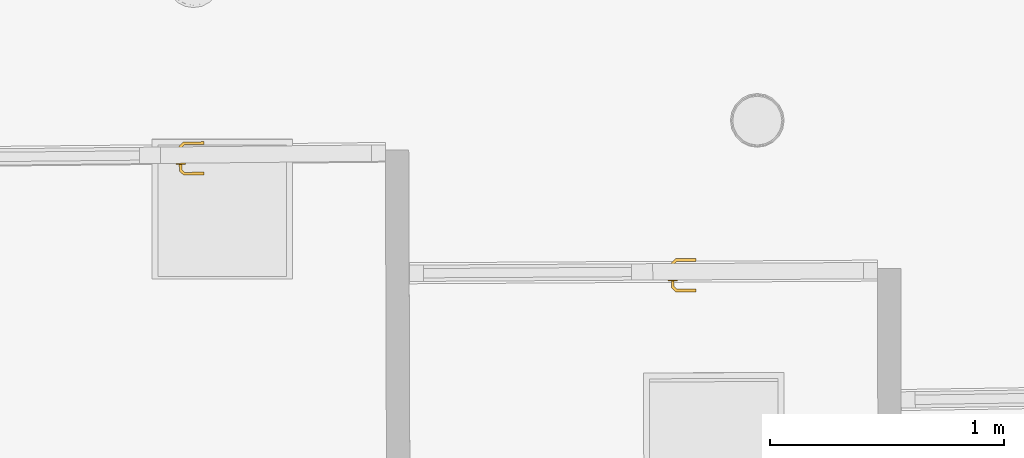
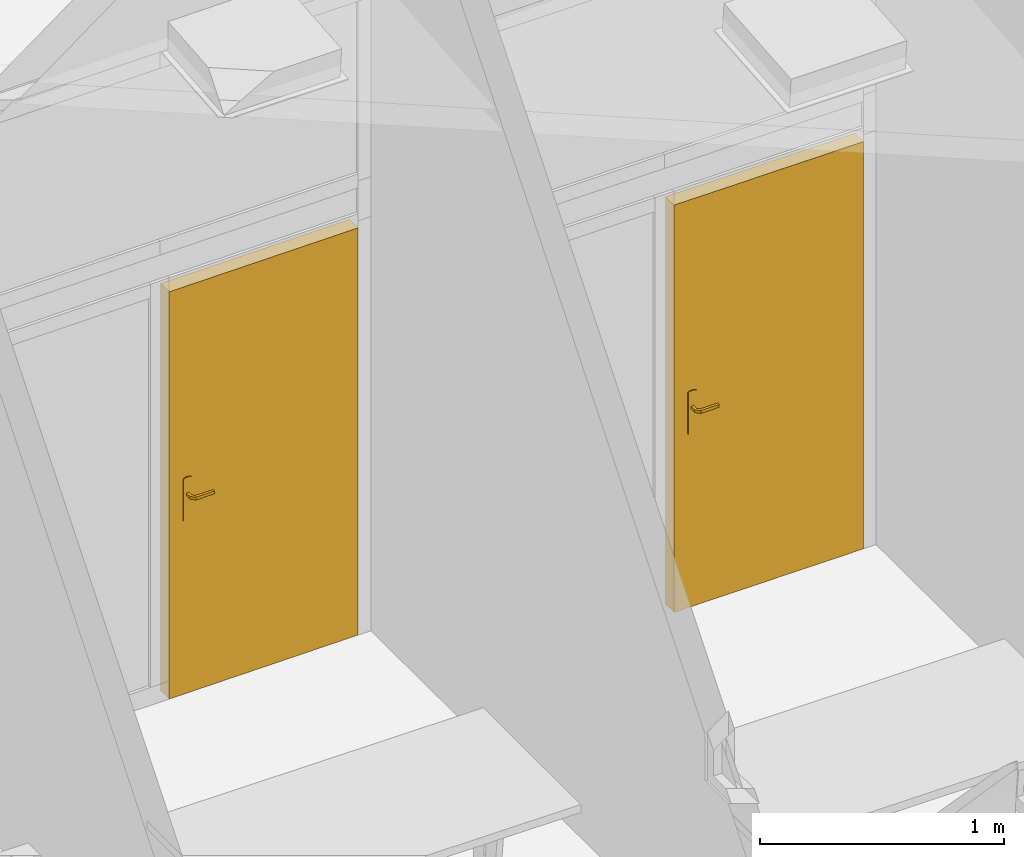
# One storey, part 55 of 128: 2 doors, 2 elements without a shape of their own.
"""IFC2X3 building model written with IfcOpenShell, lengths in metres."""

from ifc_helpers import new_model, entity, si_unit, converted_unit, derived_unit, direction, frame, origin, place, context, subcontext, project, spatial, faceted_brep, source, transform, mapped, material, type_object, type_shapes, element, aggregate, save


model = new_model("IFC2X3")

# Units and contexts
model_context = context("Model", 3, precision=1e-05, world=origin(), true_north=direction((6.123031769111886e-17, 1.0)))
body_context = subcontext(model_context, "Body", "Model", "MODEL_VIEW")
ifc_project = project(units=[si_unit("LENGTHUNIT", "METRE"), si_unit("AREAUNIT", "SQUARE_METRE"), converted_unit("PLANEANGLEUNIT", "DEGREE", entity("IfcPlaneAngleMeasure", 0.017453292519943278), si_unit("PLANEANGLEUNIT", "RADIAN"), dimensions=[0, 0, 0, 0, 0, 0, 0]), derived_unit("THERMALTRANSMITTANCEUNIT", [(si_unit("MASSUNIT", "GRAM", prefix="KILO"), 1), (si_unit("THERMODYNAMICTEMPERATUREUNIT", "KELVIN"), -1), (si_unit("TIMEUNIT", "SECOND"), -3)])], contexts=[model_context])

# Site, building, storey
site_placement = place(None, origin())
site = spatial("IfcSite", under=ifc_project, at=site_placement, Name="Default", CompositionType="ELEMENT")
building_placement = place(site_placement, origin())
building = spatial("IfcBuilding", under=site, at=building_placement, CompositionType="ELEMENT")
storey_placement = place(building_placement, origin())
storey = spatial("IfcBuildingStorey", under=building, at=storey_placement, Name="00_RDC CAF", CompositionType="ELEMENT", Elevation=2.4982504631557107e-13)

# Curtain wall, door
curtain_wall_type = type_object("IfcCurtainWallType", Name="Mur-rideau:M.Ri_Vitre_40mm_Montant_70X90mm", PredefinedType="NOTDEFINED")
curtain_wall_1_placement = place(storey_placement, origin())
curtain_wall_1 = element("IfcCurtainWall", 1, at=curtain_wall_1_placement, inside=storey, type_object=curtain_wall_type, Name="Mur-rideau:M.Ri_Vitre_40mm_Montant_70X90mm", ObjectType="Mur-rideau:M.Ri_Vitre_40mm_Montant_70X90mm")
ifc_material = material(Name="ARC - M.In - Blanc")
door_style_1 = type_object("IfcDoorStyle", Name="P_Ri_Simple:P_M-Ri_Int_Simple_Pleine_40mm", ConstructionType="NOTDEFINED", OperationType="SINGLE_SWING_LEFT", ParameterTakesPrecedence=False, Sizeable=False, material=ifc_material)
shared_shape_1 = source(origin(), body_context, "Body", "Brep", [
    faceted_brep([(0.3633806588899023, 0.03999999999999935, 0.9922195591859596), (0.3674312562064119, 0.03999999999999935, 0.992219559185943), (0.3714059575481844, 0.03999999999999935, 0.9929999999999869), (0.37140595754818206, 0.03999999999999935, 1.0070000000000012), (0.36743125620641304, 0.03999999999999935, 1.007780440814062), (0.3633806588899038, 0.03999999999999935, 1.007780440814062), (0.3594059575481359, 0.03999999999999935, 1.007000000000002), (0.3594059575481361, 0.03999999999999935, 0.9930000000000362), (0.359405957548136, 0.062485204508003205, 0.9930000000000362), (0.3594059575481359, 0.06248520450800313, 1.007000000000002), (0.3633806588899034, 0.06413157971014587, 1.007780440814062), (0.36743125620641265, 0.06580939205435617, 1.007780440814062), (0.3512448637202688, 0.08199578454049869, 1.007780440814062), (0.3495670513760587, 0.07794518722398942, 1.007780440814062), (0.37140595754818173, 0.06745576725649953, 1.0070000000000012), (0.3714059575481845, 0.06745576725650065, 0.9929999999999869), (0.367431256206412, 0.06580939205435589, 0.992219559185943), (0.3633806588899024, 0.06413157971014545, 0.9922195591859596), (0.3495670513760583, 0.07794518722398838, 0.9922195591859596), (0.3512448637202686, 0.08199578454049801, 0.992219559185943), (0.3479206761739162, 0.07397048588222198, 0.9930000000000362), (0.3479206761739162, 0.07397048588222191, 1.007000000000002), (0.352891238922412, 0.08597048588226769, 1.0070000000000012), (0.3528912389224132, 0.08597048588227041, 0.9929999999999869), (0.2653601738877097, 0.07794518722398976, 1.0077804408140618), (0.2653601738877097, 0.08199578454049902, 1.0077804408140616), (0.2653601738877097, 0.08597048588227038, 1.0070000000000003), (0.2653601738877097, 0.08597048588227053, 0.9929999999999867), (0.2653601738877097, 0.08199578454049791, 0.9922195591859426), (0.2653601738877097, 0.07794518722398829, 0.9922195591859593), (0.2653601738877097, 0.07397048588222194, 0.9930000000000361), (0.2653601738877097, 0.07397048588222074, 1.0070000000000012), (0.3066404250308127, 0.07397048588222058, 1.0070000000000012), (0.3066404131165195, 0.07397048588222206, 0.9930000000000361), (0.3074636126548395, 0.07997048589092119, 1.007878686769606), (0.3129607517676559, 0.0859704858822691, 1.0070000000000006), (0.3129607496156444, 0.08597048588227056, 0.9929999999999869), (0.30746361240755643, 0.07997048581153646, 0.9921213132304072)], [[[0, 1, 2, 3, 4, 5, 6, 7]], [[8, 7, 6, 9]], [[5, 10, 9, 6]], [[5, 4, 11, 12, 13, 10]], [[3, 14, 11, 4]], [[14, 3, 2, 15]], [[2, 1, 16, 15]], [[1, 0, 17, 18, 19, 16]], [[0, 7, 8, 17]], [[20, 8, 9, 21]], [[9, 10, 13, 21]], [[14, 22, 12, 11]], [[22, 14, 15, 23]], [[15, 16, 19, 23]], [[17, 8, 20, 18]], [[24, 25, 26, 27, 28, 29, 30, 31]], [[21, 32, 31, 30, 33, 20]], [[34, 24, 32]], [[25, 34, 35]], [[13, 32, 21]], [[24, 31, 32]], [[25, 35, 26]], [[35, 12, 22]], [[34, 12, 35]], [[34, 13, 12]], [[34, 32, 13]], [[24, 34, 25]], [[22, 23, 36, 27, 26, 35]], [[37, 28, 36]], [[36, 28, 27]], [[36, 23, 19]], [[18, 33, 37]], [[33, 18, 20]], [[30, 29, 33]], [[37, 29, 28]], [[37, 33, 29]], [[37, 36, 19]], [[18, 37, 19]]]),
    faceted_brep([(0.3633806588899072, -0.010000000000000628, 1.007780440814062), (0.3674312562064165, -0.010000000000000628, 1.0077804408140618), (0.3714059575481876, -0.010000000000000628, 1.0069999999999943), (0.3714059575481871, -0.010000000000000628, 0.9929999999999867), (0.36743125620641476, -0.010000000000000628, 0.9922195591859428), (0.3633806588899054, -0.010000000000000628, 0.9922195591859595), (0.3594059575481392, -0.010000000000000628, 0.9930000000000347), (0.3594059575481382, -0.010000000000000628, 1.0070000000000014), (0.36743125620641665, -0.036004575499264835, 1.0077804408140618), (0.37140595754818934, -0.037650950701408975, 1.007), (0.36338065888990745, -0.03432676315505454, 1.007780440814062), (0.34970456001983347, -0.04800286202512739, 1.007780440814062), (0.35138237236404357, -0.05205345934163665, 1.0077804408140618), (0.3594059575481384, -0.03268038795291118, 1.0070000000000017), (0.3594059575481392, -0.0326803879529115, 0.9930000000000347), (0.3633806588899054, -0.034326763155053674, 0.9922195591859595), (0.36743125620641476, -0.03600457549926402, 0.9922195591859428), (0.35138237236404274, -0.05205345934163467, 0.9922195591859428), (0.34970456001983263, -0.048002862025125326, 0.9922195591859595), (0.3714059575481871, -0.03765095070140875, 0.9929999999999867), (0.3530287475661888, -0.056028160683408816, 1.007), (0.34805818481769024, -0.04402816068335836, 1.0070000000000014), (0.3480581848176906, -0.044028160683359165, 0.9930000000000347), (0.35302874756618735, -0.056028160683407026, 0.9929999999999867), (0.265387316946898, -0.05602816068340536, 1.0070000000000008), (0.265387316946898, -0.05205345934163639, 1.0077804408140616), (0.265387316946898, -0.048002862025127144, 1.0077804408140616), (0.265387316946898, -0.0440281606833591, 1.0069999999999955), (0.265387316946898, -0.044028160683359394, 0.9930000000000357), (0.265387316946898, -0.04800286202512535, 0.9922195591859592), (0.265387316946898, -0.05205345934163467, 0.9922195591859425), (0.265387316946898, -0.05602816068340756, 0.9929999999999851), (0.3075459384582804, -0.05002816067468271, 1.0078786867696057), (0.31309826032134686, -0.05602816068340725, 1.0070000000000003), (0.3067227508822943, -0.04402816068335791, 1.0070000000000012), (0.3067227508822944, -0.04402816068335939, 0.993000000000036), (0.30754593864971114, -0.05002816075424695, 0.9921213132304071), (0.31309824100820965, -0.05602816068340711, 0.9929999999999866)], [[[0, 1, 2, 3, 4, 5, 6, 7]], [[2, 1, 8, 9]], [[1, 0, 10, 11, 12, 8]], [[0, 7, 13, 10]], [[13, 7, 6, 14]], [[5, 15, 14, 6]], [[5, 4, 16, 17, 18, 15]], [[3, 19, 16, 4]], [[9, 19, 3, 2]], [[9, 8, 12, 20]], [[10, 13, 21, 11]], [[21, 13, 14, 22]], [[14, 15, 18, 22]], [[16, 19, 23, 17]], [[20, 23, 19, 9]], [[24, 25, 26, 27, 28, 29, 30, 31]], [[32, 25, 33]], [[33, 25, 24]], [[33, 20, 12]], [[11, 34, 32]], [[34, 11, 21]], [[27, 26, 34]], [[32, 26, 25]], [[32, 34, 26]], [[32, 33, 12]], [[11, 32, 12]], [[22, 35, 28, 27, 34, 21]], [[36, 29, 35]], [[30, 36, 37]], [[18, 35, 22]], [[29, 28, 35]], [[30, 37, 31]], [[37, 17, 23]], [[36, 17, 37]], [[36, 18, 17]], [[36, 35, 18]], [[29, 36, 30]], [[23, 20, 33, 24, 31, 37]]]),
    faceted_brep([(0.3854059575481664, 0.0349999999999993, 0.8700000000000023), (0.38540595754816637, 0.0349999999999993, 1.0800000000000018), (0.3757587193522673, 0.03499999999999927, 1.083996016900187), (0.3654059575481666, 0.03499999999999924, 1.0853589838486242), (0.35505319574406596, 0.034999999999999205, 1.083996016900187), (0.345405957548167, 0.03499999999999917, 1.0800000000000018), (0.3454059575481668, 0.03499999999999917, 0.8700000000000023), (0.3550531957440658, 0.034999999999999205, 0.8660039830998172), (0.3654059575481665, 0.03499999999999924, 0.8646410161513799), (0.3757587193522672, 0.03499999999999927, 0.866003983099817), (0.38540595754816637, 0.03999999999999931, 1.0800000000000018), (0.3854059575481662, 0.03999999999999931, 0.8700000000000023), (0.3757587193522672, 0.03999999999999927, 0.866003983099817), (0.3654059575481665, 0.03999999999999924, 0.8646410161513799), (0.3550531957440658, 0.0399999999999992, 0.8660039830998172), (0.3454059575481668, 0.03999999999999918, 0.8700000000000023), (0.3454059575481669, 0.03999999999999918, 1.0800000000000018), (0.35505319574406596, 0.0399999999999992, 1.083996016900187), (0.3654059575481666, 0.03999999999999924, 1.0853589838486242), (0.3757587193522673, 0.03999999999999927, 1.083996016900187)], [[[0, 1, 2, 3, 4, 5, 6, 7, 8, 9]], [[10, 11, 12, 13, 14, 15, 16, 17, 18, 19]], [[4, 17, 16, 5]], [[3, 18, 17, 4]], [[2, 19, 18, 3]], [[2, 1, 10, 19]], [[10, 1, 0, 11]], [[9, 12, 11, 0]], [[8, 13, 12, 9]], [[7, 14, 13, 8]], [[7, 6, 15, 14]], [[15, 6, 5, 16]]]),
    faceted_brep([(0.3654059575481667, -0.010000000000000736, 0.8646410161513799), (0.3757587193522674, -0.010000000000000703, 0.8660039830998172), (0.3854059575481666, -0.010000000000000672, 0.8700000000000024), (0.38540595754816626, -0.010000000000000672, 1.080000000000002), (0.3757587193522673, -0.010000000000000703, 1.083996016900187), (0.36540595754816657, -0.010000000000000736, 1.0853589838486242), (0.3550531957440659, -0.01000000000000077, 1.083996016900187), (0.34540595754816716, -0.0100000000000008, 1.0800000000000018), (0.345405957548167, -0.0100000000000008, 0.8700000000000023), (0.3550531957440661, -0.01000000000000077, 0.866003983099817), (0.3854059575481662, -0.005000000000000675, 1.080000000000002), (0.38540595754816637, -0.005000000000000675, 0.8700000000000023), (0.37575871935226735, -0.005000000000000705, 0.8660039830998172), (0.3654059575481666, -0.005000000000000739, 0.8646410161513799), (0.3550531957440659, -0.005000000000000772, 0.866003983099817), (0.3454059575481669, -0.005000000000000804, 0.8700000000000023), (0.34540595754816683, -0.005000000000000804, 1.0800000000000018), (0.35505319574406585, -0.005000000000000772, 1.083996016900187), (0.3654059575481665, -0.005000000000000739, 1.0853589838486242), (0.3757587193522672, -0.005000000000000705, 1.083996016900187)], [[[0, 1, 2, 3, 4, 5, 6, 7, 8, 9]], [[10, 11, 12, 13, 14, 15, 16, 17, 18, 19]], [[1, 12, 11, 2]], [[0, 13, 12, 1]], [[9, 14, 13, 0]], [[9, 8, 15, 14]], [[15, 8, 7, 16]], [[6, 17, 16, 7]], [[5, 18, 17, 6]], [[4, 19, 18, 5]], [[4, 3, 10, 19]], [[10, 3, 2, 11]]]),
    faceted_brep([(0.415405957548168, -0.004999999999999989, 2.004999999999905), (0.4154059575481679, 0.03500000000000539, 2.004999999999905), (-0.4154059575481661, 0.03500000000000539, 2.004999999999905), (-0.41540595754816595, -0.004999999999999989, 2.004999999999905), (0.415405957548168, -0.004999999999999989, 0.0), (-0.41540595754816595, -0.004999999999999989, 0.0), (-0.4154059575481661, 0.03500000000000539, 0.0), (0.4154059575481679, 0.03500000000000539, 0.0)], [[[0, 1, 2, 3]], [[4, 5, 6, 7]], [[1, 0, 4, 7]], [[2, 1, 7, 6]], [[3, 2, 6, 5]], [[0, 3, 5, 4]]]),
    faceted_brep([(-0.4504059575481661, -0.03499999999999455, 0.0), (-0.4504059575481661, 0.0350000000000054, 0.0), (-0.4154059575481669, 0.035000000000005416, 0.0), (-0.4154059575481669, -0.0049999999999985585, 0.0), (-0.40040595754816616, -0.0049999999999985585, 0.0), (-0.40040595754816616, -0.034999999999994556, 0.0), (-0.45040595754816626, -0.03499999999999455, 2.039999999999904), (-0.45040595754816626, 0.0350000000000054, 2.039999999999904), (0.450405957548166, 0.0350000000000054, 2.039999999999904), (0.450405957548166, 0.0350000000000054, 0.0), (0.41540595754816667, 0.035000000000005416, 0.0), (0.4154059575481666, 0.035000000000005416, 2.004999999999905), (-0.41540595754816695, 0.035000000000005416, 2.004999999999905), (-0.41540595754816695, -0.0049999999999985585, 2.004999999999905), (0.4154059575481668, -0.0049999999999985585, 2.004999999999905), (0.4154059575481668, -0.0049999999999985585, 0.0), (0.40040595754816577, -0.0049999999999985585, 0.0), (0.4004059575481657, -0.0049999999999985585, 1.9899999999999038), (-0.4004059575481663, -0.0049999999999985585, 1.989999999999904), (-0.4004059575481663, -0.034999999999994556, 1.989999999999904), (0.40040595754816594, -0.034999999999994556, 1.9899999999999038), (0.40040595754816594, -0.034999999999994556, 0.0), (0.45040595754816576, -0.034999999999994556, 0.0), (0.4504059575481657, -0.034999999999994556, 2.039999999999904)], [[[0, 1, 2, 3, 4, 5]], [[1, 0, 6, 7]], [[2, 1, 7, 8, 9, 10, 11, 12]], [[3, 2, 12, 13]], [[4, 3, 13, 14, 15, 16, 17, 18]], [[5, 4, 18, 19]], [[0, 5, 19, 20, 21, 22, 23, 6]], [[8, 23, 22, 9]], [[22, 21, 16, 15, 10, 9]], [[14, 11, 10, 15]], [[20, 17, 16, 21]], [[7, 6, 23, 8]], [[13, 12, 11, 14]], [[19, 18, 17, 20]]]),
])
type_shapes(door_style_1, [shared_shape_1])
door_1_placement = place(curtain_wall_1_placement, frame((12.699585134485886, 135.5413282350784, 0.0), z_axis=(0.0, 0.0, 1.0), x_axis=(-0.9999489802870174, -0.010101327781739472, 0.0)))
door_1 = element("IfcDoor", 2, at=door_1_placement, type_object=door_style_1, material=ifc_material, Name="P_Ri_Simple:P_M-Ri_Int_Simple_Pleine_40mm", ObjectType="P_Ri_Simple:P_M-Ri_Int_Simple_Pleine_40mm", OverallHeight=2.0399999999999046, OverallWidth=0.9008119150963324, context=body_context, shape_type="MappedRepresentation", body=[
    mapped(shared_shape_1, transform((0.0, 0.0, 0.0), scale=1.0)),
])
aggregate(curtain_wall_1, [door_1])

curtain_wall_2_placement = place(storey_placement, origin())
curtain_wall_2 = element("IfcCurtainWall", 3, at=curtain_wall_2_placement, inside=storey, type_object=curtain_wall_type, Name="Mur-rideau:M.Ri_Vitre_40mm_Montant_70X90mm", ObjectType="Mur-rideau:M.Ri_Vitre_40mm_Montant_70X90mm")
door_style_2 = type_object("IfcDoorStyle", Name="P_Ri_Simple:P_M-Ri_Int_Simple_Pleine_40mm", ConstructionType="NOTDEFINED", OperationType="SINGLE_SWING_LEFT", ParameterTakesPrecedence=False, Sizeable=False, material=ifc_material)
shared_shape_2 = source(origin(), body_context, "Body", "Brep", [
    faceted_brep([(0.3632643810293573, 0.03999999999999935, 0.9922195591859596), (0.36731497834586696, 0.03999999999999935, 0.992219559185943), (0.37128967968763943, 0.03999999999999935, 0.9929999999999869), (0.37128967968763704, 0.03999999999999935, 1.0070000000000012), (0.367314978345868, 0.03999999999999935, 1.007780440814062), (0.3632643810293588, 0.03999999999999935, 1.007780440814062), (0.3592896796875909, 0.03999999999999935, 1.007000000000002), (0.3592896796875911, 0.03999999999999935, 0.9930000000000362), (0.359289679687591, 0.062485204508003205, 0.9930000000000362), (0.3592896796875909, 0.06248520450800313, 1.007000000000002), (0.3632643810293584, 0.06413157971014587, 1.007780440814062), (0.3673149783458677, 0.06580939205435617, 1.007780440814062), (0.35112858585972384, 0.08199578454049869, 1.007780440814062), (0.34945077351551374, 0.07794518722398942, 1.007780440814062), (0.3712896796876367, 0.06745576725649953, 1.0070000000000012), (0.3712896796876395, 0.06745576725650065, 0.9929999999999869), (0.367314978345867, 0.06580939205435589, 0.992219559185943), (0.3632643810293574, 0.06413157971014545, 0.9922195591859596), (0.34945077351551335, 0.07794518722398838, 0.9922195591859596), (0.35112858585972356, 0.08199578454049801, 0.992219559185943), (0.34780439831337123, 0.07397048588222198, 0.9930000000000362), (0.34780439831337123, 0.07397048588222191, 1.007000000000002), (0.35277496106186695, 0.08597048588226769, 1.0070000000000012), (0.3527749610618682, 0.08597048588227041, 0.9929999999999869), (0.2652438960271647, 0.07794518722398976, 1.0077804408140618), (0.2652438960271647, 0.08199578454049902, 1.0077804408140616), (0.2652438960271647, 0.08597048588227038, 1.0070000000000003), (0.26524389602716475, 0.08597048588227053, 0.9929999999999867), (0.26524389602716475, 0.08199578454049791, 0.9922195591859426), (0.26524389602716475, 0.07794518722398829, 0.9922195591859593), (0.26524389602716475, 0.07397048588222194, 0.9930000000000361), (0.2652438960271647, 0.07397048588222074, 1.0070000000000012), (0.3065241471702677, 0.07397048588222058, 1.0070000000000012), (0.30652413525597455, 0.07397048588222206, 0.9930000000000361), (0.30734733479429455, 0.07997048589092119, 1.007878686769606), (0.31284447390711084, 0.0859704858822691, 1.0070000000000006), (0.31284447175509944, 0.08597048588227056, 0.9929999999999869), (0.30734733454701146, 0.07997048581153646, 0.9921213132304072)], [[[0, 1, 2, 3, 4, 5, 6, 7]], [[8, 7, 6, 9]], [[5, 10, 9, 6]], [[5, 4, 11, 12, 13, 10]], [[3, 14, 11, 4]], [[14, 3, 2, 15]], [[2, 1, 16, 15]], [[1, 0, 17, 18, 19, 16]], [[0, 7, 8, 17]], [[20, 8, 9, 21]], [[9, 10, 13, 21]], [[14, 22, 12, 11]], [[22, 14, 15, 23]], [[15, 16, 19, 23]], [[17, 8, 20, 18]], [[24, 25, 26, 27, 28, 29, 30, 31]], [[21, 32, 31, 30, 33, 20]], [[34, 24, 32]], [[25, 34, 35]], [[13, 32, 21]], [[24, 31, 32]], [[25, 35, 26]], [[35, 12, 22]], [[34, 12, 35]], [[34, 13, 12]], [[34, 32, 13]], [[24, 34, 25]], [[22, 23, 36, 27, 26, 35]], [[37, 28, 36]], [[36, 28, 27]], [[36, 23, 19]], [[18, 33, 37]], [[33, 18, 20]], [[30, 29, 33]], [[37, 29, 28]], [[37, 33, 29]], [[37, 36, 19]], [[18, 37, 19]]]),
    faceted_brep([(0.36326438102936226, -0.010000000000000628, 1.007780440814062), (0.36731497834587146, -0.010000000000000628, 1.0077804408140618), (0.3712896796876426, -0.010000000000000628, 1.0069999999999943), (0.37128967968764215, -0.010000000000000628, 0.9929999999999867), (0.3673149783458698, -0.010000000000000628, 0.9922195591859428), (0.36326438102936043, -0.010000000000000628, 0.9922195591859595), (0.35928967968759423, -0.010000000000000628, 0.9930000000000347), (0.35928967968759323, -0.010000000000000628, 1.0070000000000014), (0.3673149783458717, -0.036004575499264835, 1.0077804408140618), (0.37128967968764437, -0.037650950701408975, 1.007), (0.3632643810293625, -0.03432676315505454, 1.007780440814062), (0.34958828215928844, -0.04800286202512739, 1.007780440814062), (0.35126609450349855, -0.05205345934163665, 1.0077804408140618), (0.3592896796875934, -0.03268038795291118, 1.0070000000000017), (0.35928967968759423, -0.0326803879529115, 0.9930000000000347), (0.36326438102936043, -0.034326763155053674, 0.9922195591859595), (0.3673149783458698, -0.03600457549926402, 0.9922195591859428), (0.35126609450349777, -0.05205345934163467, 0.9922195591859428), (0.34958828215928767, -0.048002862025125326, 0.9922195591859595), (0.37128967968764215, -0.03765095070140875, 0.9929999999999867), (0.35291246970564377, -0.056028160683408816, 1.007), (0.3479419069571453, -0.04402816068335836, 1.0070000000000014), (0.3479419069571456, -0.044028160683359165, 0.9930000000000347), (0.3529124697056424, -0.056028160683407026, 0.9929999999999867), (0.26527103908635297, -0.05602816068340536, 1.0070000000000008), (0.26527103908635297, -0.05205345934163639, 1.0077804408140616), (0.26527103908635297, -0.048002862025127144, 1.0077804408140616), (0.26527103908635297, -0.0440281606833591, 1.0069999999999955), (0.265271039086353, -0.044028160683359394, 0.9930000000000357), (0.265271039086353, -0.04800286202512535, 0.9922195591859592), (0.265271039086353, -0.05205345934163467, 0.9922195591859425), (0.265271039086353, -0.05602816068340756, 0.9929999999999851), (0.3074296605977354, -0.05002816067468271, 1.0078786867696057), (0.3129819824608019, -0.05602816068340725, 1.0070000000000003), (0.3066064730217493, -0.04402816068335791, 1.0070000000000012), (0.30660647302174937, -0.04402816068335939, 0.993000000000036), (0.30742966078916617, -0.05002816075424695, 0.9921213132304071), (0.3129819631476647, -0.05602816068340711, 0.9929999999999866)], [[[0, 1, 2, 3, 4, 5, 6, 7]], [[2, 1, 8, 9]], [[1, 0, 10, 11, 12, 8]], [[0, 7, 13, 10]], [[13, 7, 6, 14]], [[5, 15, 14, 6]], [[5, 4, 16, 17, 18, 15]], [[3, 19, 16, 4]], [[9, 19, 3, 2]], [[9, 8, 12, 20]], [[10, 13, 21, 11]], [[21, 13, 14, 22]], [[14, 15, 18, 22]], [[16, 19, 23, 17]], [[20, 23, 19, 9]], [[24, 25, 26, 27, 28, 29, 30, 31]], [[32, 25, 33]], [[33, 25, 24]], [[33, 20, 12]], [[11, 34, 32]], [[34, 11, 21]], [[27, 26, 34]], [[32, 26, 25]], [[32, 34, 26]], [[32, 33, 12]], [[11, 32, 12]], [[22, 35, 28, 27, 34, 21]], [[36, 29, 35]], [[30, 36, 37]], [[18, 35, 22]], [[29, 28, 35]], [[30, 37, 31]], [[37, 17, 23]], [[36, 17, 37]], [[36, 18, 17]], [[36, 35, 18]], [[29, 36, 30]], [[23, 20, 33, 24, 31, 37]]]),
    faceted_brep([(0.3852896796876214, 0.0349999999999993, 0.8700000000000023), (0.38528967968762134, 0.0349999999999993, 1.0800000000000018), (0.37564244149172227, 0.03499999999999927, 1.083996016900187), (0.36528967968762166, 0.03499999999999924, 1.0853589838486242), (0.354936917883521, 0.034999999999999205, 1.083996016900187), (0.345289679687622, 0.03499999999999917, 1.0800000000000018), (0.3452896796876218, 0.03499999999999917, 0.8700000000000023), (0.3549369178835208, 0.034999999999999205, 0.8660039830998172), (0.3652896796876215, 0.03499999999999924, 0.8646410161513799), (0.3756424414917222, 0.03499999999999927, 0.866003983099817), (0.38528967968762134, 0.03999999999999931, 1.0800000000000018), (0.38528967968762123, 0.03999999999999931, 0.8700000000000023), (0.3756424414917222, 0.03999999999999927, 0.866003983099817), (0.3652896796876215, 0.03999999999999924, 0.8646410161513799), (0.3549369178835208, 0.0399999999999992, 0.8660039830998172), (0.3452896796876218, 0.03999999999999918, 0.8700000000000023), (0.3452896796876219, 0.03999999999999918, 1.0800000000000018), (0.354936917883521, 0.0399999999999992, 1.083996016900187), (0.36528967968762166, 0.03999999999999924, 1.0853589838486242), (0.37564244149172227, 0.03999999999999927, 1.083996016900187)], [[[0, 1, 2, 3, 4, 5, 6, 7, 8, 9]], [[10, 11, 12, 13, 14, 15, 16, 17, 18, 19]], [[4, 17, 16, 5]], [[3, 18, 17, 4]], [[2, 19, 18, 3]], [[2, 1, 10, 19]], [[10, 1, 0, 11]], [[9, 12, 11, 0]], [[8, 13, 12, 9]], [[7, 14, 13, 8]], [[7, 6, 15, 14]], [[15, 6, 5, 16]]]),
    faceted_brep([(0.3652896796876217, -0.010000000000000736, 0.8646410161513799), (0.37564244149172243, -0.010000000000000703, 0.8660039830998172), (0.3852896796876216, -0.010000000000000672, 0.8700000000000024), (0.3852896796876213, -0.010000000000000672, 1.080000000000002), (0.37564244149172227, -0.010000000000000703, 1.083996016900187), (0.36528967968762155, -0.010000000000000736, 1.0853589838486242), (0.35493691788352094, -0.01000000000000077, 1.083996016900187), (0.3452896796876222, -0.0100000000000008, 1.0800000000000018), (0.345289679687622, -0.0100000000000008, 0.8700000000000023), (0.35493691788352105, -0.01000000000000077, 0.866003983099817), (0.38528967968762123, -0.005000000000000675, 1.080000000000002), (0.38528967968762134, -0.005000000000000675, 0.8700000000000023), (0.3756424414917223, -0.005000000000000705, 0.8660039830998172), (0.36528967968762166, -0.005000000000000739, 0.8646410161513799), (0.35493691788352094, -0.005000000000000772, 0.866003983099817), (0.3452896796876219, -0.005000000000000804, 0.8700000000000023), (0.34528967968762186, -0.005000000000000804, 1.0800000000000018), (0.3549369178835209, -0.005000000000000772, 1.083996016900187), (0.3652896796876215, -0.005000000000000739, 1.0853589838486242), (0.3756424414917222, -0.005000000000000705, 1.083996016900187)], [[[0, 1, 2, 3, 4, 5, 6, 7, 8, 9]], [[10, 11, 12, 13, 14, 15, 16, 17, 18, 19]], [[1, 12, 11, 2]], [[0, 13, 12, 1]], [[9, 14, 13, 0]], [[9, 8, 15, 14]], [[15, 8, 7, 16]], [[6, 17, 16, 7]], [[5, 18, 17, 6]], [[4, 19, 18, 5]], [[4, 3, 10, 19]], [[10, 3, 2, 11]]]),
    faceted_brep([(0.415289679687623, -0.004999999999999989, 2.004999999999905), (0.4152896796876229, 0.03500000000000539, 2.004999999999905), (-0.4152896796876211, 0.03500000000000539, 2.004999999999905), (-0.415289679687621, -0.004999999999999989, 2.004999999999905), (0.415289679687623, -0.004999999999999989, 0.0), (-0.415289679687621, -0.004999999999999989, 0.0), (-0.4152896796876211, 0.03500000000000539, 0.0), (0.4152896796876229, 0.03500000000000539, 0.0)], [[[0, 1, 2, 3]], [[4, 5, 6, 7]], [[1, 0, 4, 7]], [[2, 1, 7, 6]], [[3, 2, 6, 5]], [[0, 3, 5, 4]]]),
    faceted_brep([(-0.4502896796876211, -0.03499999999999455, 0.0), (-0.4502896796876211, 0.0350000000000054, 0.0), (-0.4152896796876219, 0.035000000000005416, 0.0), (-0.4152896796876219, -0.0049999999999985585, 0.0), (-0.4002896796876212, -0.0049999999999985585, 0.0), (-0.4002896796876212, -0.034999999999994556, 0.0), (-0.4502896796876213, -0.03499999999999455, 2.039999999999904), (-0.4502896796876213, 0.0350000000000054, 2.039999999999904), (0.45028967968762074, 0.0350000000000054, 2.039999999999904), (0.45028967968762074, 0.0350000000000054, 0.0), (0.4152896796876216, 0.035000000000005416, 0.0), (0.41528967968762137, 0.035000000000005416, 2.0049999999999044), (-0.415289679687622, 0.035000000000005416, 2.004999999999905), (-0.415289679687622, -0.0049999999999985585, 2.004999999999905), (0.4152896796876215, -0.0049999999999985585, 2.0049999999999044), (0.4152896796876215, -0.0049999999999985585, 0.0), (0.4002896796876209, -0.0049999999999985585, 0.0), (0.40028967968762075, -0.0049999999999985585, 1.9899999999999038), (-0.4002896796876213, -0.0049999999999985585, 1.989999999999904), (-0.4002896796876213, -0.034999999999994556, 1.989999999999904), (0.4002896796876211, -0.034999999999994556, 1.989999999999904), (0.4002896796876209, -0.034999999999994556, 0.0), (0.4502896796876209, -0.034999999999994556, 0.0), (0.45028967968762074, -0.034999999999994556, 2.039999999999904)], [[[0, 1, 2, 3, 4, 5]], [[1, 0, 6, 7]], [[2, 1, 7, 8, 9, 10, 11, 12]], [[3, 2, 12, 13]], [[4, 3, 13, 14, 15, 16, 17, 18]], [[5, 4, 18, 19]], [[0, 5, 19, 20, 21, 22, 23, 6]], [[8, 23, 22, 9]], [[22, 21, 16, 15, 10, 9]], [[14, 11, 10, 15]], [[20, 17, 16, 21]], [[7, 6, 23, 8]], [[13, 12, 11, 14]], [[19, 18, 17, 20]]]),
])
type_shapes(door_style_2, [shared_shape_2])
door_2_placement = place(curtain_wall_2_placement, frame((14.803481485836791, 135.04064253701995, 0.0), z_axis=(0.0, 0.0, 1.0), x_axis=(-0.9999841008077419, -0.005638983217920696, 0.0)))
door_2 = element("IfcDoor", 4, at=door_2_placement, type_object=door_style_2, material=ifc_material, Name="P_Ri_Simple:P_M-Ri_Int_Simple_Pleine_40mm", ObjectType="P_Ri_Simple:P_M-Ri_Int_Simple_Pleine_40mm", OverallHeight=2.039999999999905, OverallWidth=0.9005793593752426, context=body_context, shape_type="MappedRepresentation", body=[
    mapped(shared_shape_2, transform((0.0, 0.0, 0.0), scale=1.0)),
])
aggregate(curtain_wall_2, [door_2])

save(model, "model.ifc")
